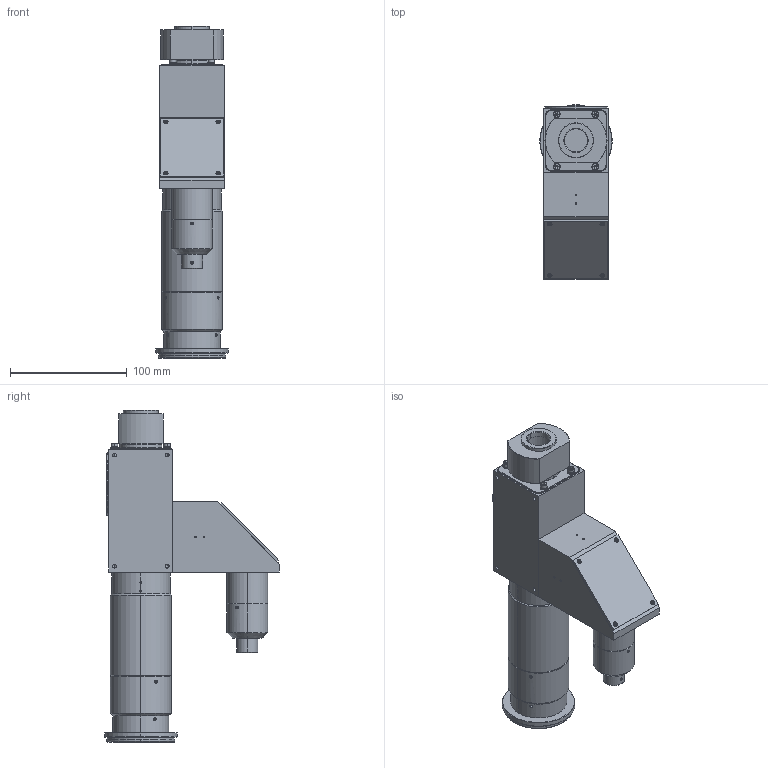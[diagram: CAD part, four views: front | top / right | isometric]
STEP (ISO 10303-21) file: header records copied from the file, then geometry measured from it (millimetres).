
FILE_DESCRIPTION (( 'STEP AP214' ), '1' );
FILE_NAME ('SOD-180-32M58-AFP.STEP', '2026-02-19T03:00:56', ( '' ), ( '' ), 'SwSTEP 2.0', 'SolidWorks 2025', '' );
FILE_SCHEMA (( 'AUTOMOTIVE_DESIGN' ));
Length unit declared in the file: millimetre
Products named in the file (1): SOD-180-32M58-AFP
Bounding box: 62 x 149.5 x 283.8 mm (x, y, z)
Volume: 886930.9 mm3; surface area: 106391.1 mm2
Topology: 1 solids, 34 shells, 1215 faces, 2881 edges, 1781 vertices
Faces by surface type: plane 490, cylinder 367, cone 288, torus 60, sphere 10
Entity records: 36491 total; most frequent: CARTESIAN_POINT 8435, DIRECTION 6096, ORIENTED_EDGE 5642, EDGE_CURVE 2821, AXIS2_PLACEMENT_3D 2396, VERTEX_POINT 1781, EDGE_LOOP 1358, LINE 1304
